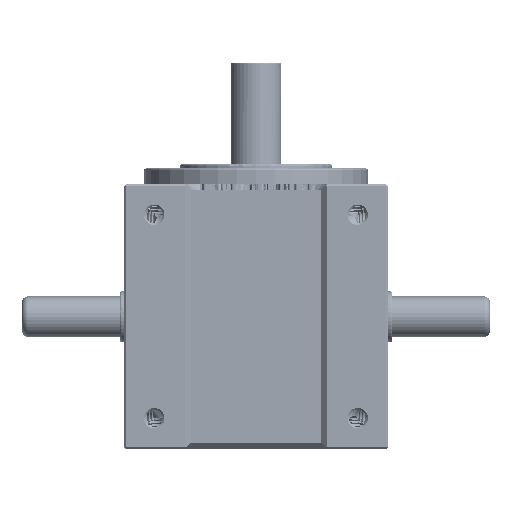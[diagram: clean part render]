
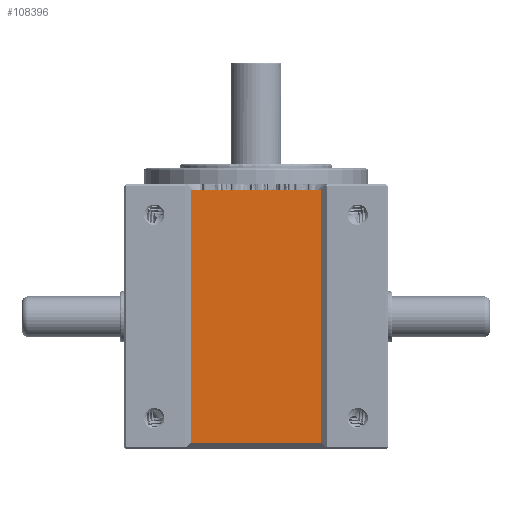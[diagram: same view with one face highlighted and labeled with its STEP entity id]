
A CAD part, top view. The second image highlights one B-rep face of the part: STEP entity #108396.
In plain terms, the highlighted planar face has unit normal (0, 0, 1).
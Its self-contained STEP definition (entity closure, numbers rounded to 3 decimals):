
#5407 = ORIENTED_EDGE ( 'NONE', *, *, #88353, .T. ) ;
#9494 = EDGE_CURVE ( 'NONE', #52849, #98722, #187918, .T. ) ;
#10863 = ORIENTED_EDGE ( 'NONE', *, *, #107710, .T. ) ;
#11915 = CARTESIAN_POINT ( 'NONE',  ( 32., -62., 192. ) ) ;
#15195 = VECTOR ( 'NONE', #146469, 1000. ) ;
#23161 = CARTESIAN_POINT ( 'NONE',  ( 32., 62., 192. ) ) ;
#30161 = VERTEX_POINT ( 'NONE', #166978 ) ;
#47831 = VECTOR ( 'NONE', #66504, 1000. ) ;
#49624 = CARTESIAN_POINT ( 'NONE',  ( 0., 62., 192. ) ) ;
#51813 = ORIENTED_EDGE ( 'NONE', *, *, #85904, .T. ) ;
#52849 = VERTEX_POINT ( 'NONE', #168156 ) ;
#66504 = DIRECTION ( 'NONE',  ( 0., -1., 0. ) ) ;
#85904 = EDGE_CURVE ( 'NONE', #89794, #30161, #124625, .T. ) ;
#88353 = EDGE_CURVE ( 'NONE', #98722, #89794, #114879, .T. ) ;
#89794 = VERTEX_POINT ( 'NONE', #23161 ) ;
#94592 = CARTESIAN_POINT ( 'NONE',  ( 32., -65., 192. ) ) ;
#98722 = VERTEX_POINT ( 'NONE', #11915 ) ;
#99577 = LINE ( 'NONE', #143800, #47831 ) ;
#100707 = DIRECTION ( 'NONE',  ( 0., 0., 1. ) ) ;
#102726 = VECTOR ( 'NONE', #114141, 1000. ) ;
#107710 = EDGE_CURVE ( 'NONE', #30161, #52849, #99577, .T. ) ;
#108396 = ADVANCED_FACE ( 'NONE', ( #123671 ), #138854, .T. ) ;
#114141 = DIRECTION ( 'NONE',  ( 0., 1., 0. ) ) ;
#114879 = LINE ( 'NONE', #94592, #102726 ) ;
#123671 = FACE_OUTER_BOUND ( 'NONE', #198150, .T. ) ;
#124625 = LINE ( 'NONE', #49624, #15195 ) ;
#128219 = DIRECTION ( 'NONE',  ( 1., 0., 0. ) ) ;
#138854 = PLANE ( 'NONE',  #154815 ) ;
#143800 = CARTESIAN_POINT ( 'NONE',  ( -32., 0., 192. ) ) ;
#146469 = DIRECTION ( 'NONE',  ( -1., 0., 0. ) ) ;
#154815 = AXIS2_PLACEMENT_3D ( 'NONE', #158455, #100707, #236690 ) ;
#158455 = CARTESIAN_POINT ( 'NONE',  ( 0., 0., 192. ) ) ;
#166978 = CARTESIAN_POINT ( 'NONE',  ( -32., 62., 192. ) ) ;
#168156 = CARTESIAN_POINT ( 'NONE',  ( -32., -62., 192. ) ) ;
#181831 = VECTOR ( 'NONE', #128219, 1000. ) ;
#187918 = LINE ( 'NONE', #205608, #181831 ) ;
#190683 = ORIENTED_EDGE ( 'NONE', *, *, #9494, .T. ) ;
#198150 = EDGE_LOOP ( 'NONE', ( #51813, #10863, #190683, #5407 ) ) ;
#205608 = CARTESIAN_POINT ( 'NONE',  ( -35., -62., 192. ) ) ;
#236690 = DIRECTION ( 'NONE',  ( 1., 0., 0. ) ) ;
